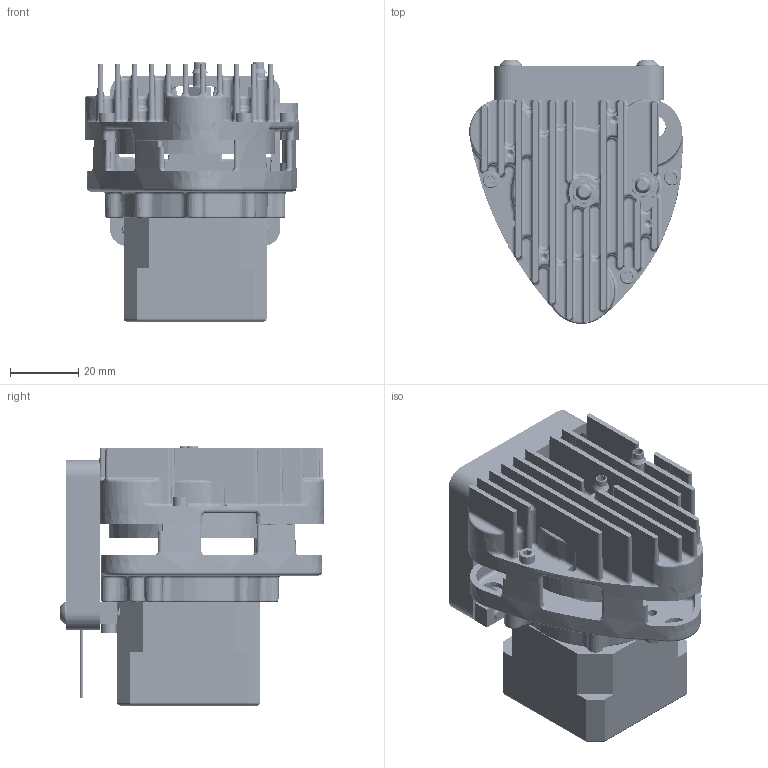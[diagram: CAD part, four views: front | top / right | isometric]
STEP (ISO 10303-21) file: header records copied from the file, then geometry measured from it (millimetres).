
FILE_DESCRIPTION (( 'STEP AP203' ), '1' );
FILE_NAME ('V05H012A-B01.STEP', '2021-02-03T21:55:33', ( '' ), ( '' ), 'SwSTEP 2.0', 'SolidWorks 2020', '' );
FILE_SCHEMA (( 'CONFIG_CONTROL_DESIGN' ));
Products named in the file (1): V05H012A-B01
Bounding box: 62.75 x 77.54 x 76.12 mm (x, y, z)
Volume: 110483.6 mm3; surface area: 68872 mm2
Topology: 24 solids, 24 shells, 2517 faces, 6547 edges, 4018 vertices
Faces by surface type: cylinder 1069, cone 422, torus 388, plane 371, bspline 245, sphere 22
Entity records: 128137 total; most frequent: CARTESIAN_POINT 71685, ORIENTED_EDGE 12886, DIRECTION 10978, EDGE_CURVE 6443, AXIS2_PLACEMENT_3D 4553, VERTEX_POINT 4018, EDGE_LOOP 2659, FACE_OUTER_BOUND 2517
